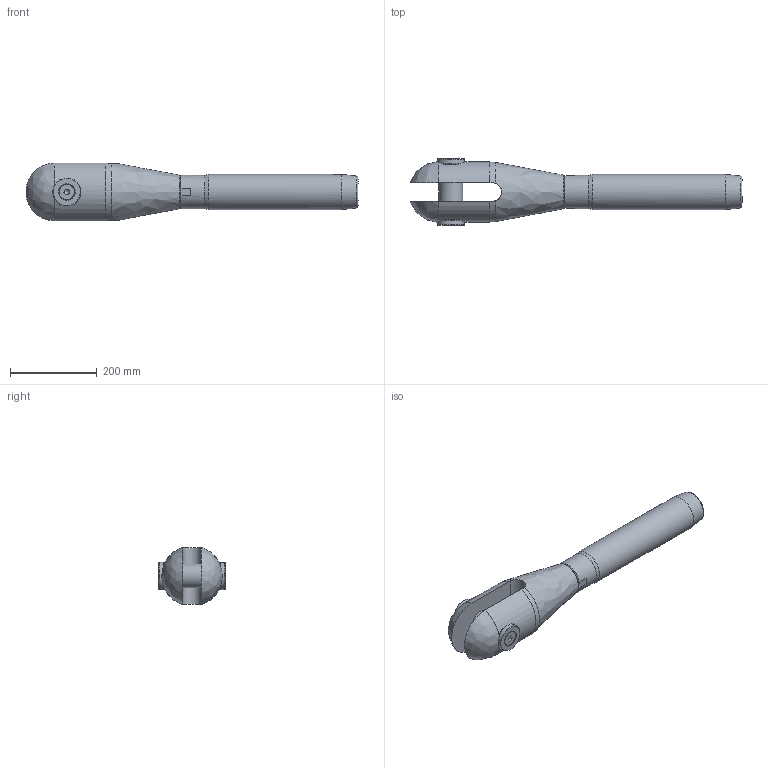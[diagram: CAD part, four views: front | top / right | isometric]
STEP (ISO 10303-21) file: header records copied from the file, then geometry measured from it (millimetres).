
FILE_DESCRIPTION(/* description */ (''),/* implementation_level */ '2;1');
FILE_NAME(/* name */ 'MAC-R 38_S355',/* time_stamp */ '2023-05-23T17:52:57+02:00',/* author */ (''),/* organization */ (''),/* preprocessor_version */ 'ST-DEVELOPER v16.5',/* originating_system */ 'Rhino 7.22',/* authorisation */ '');
FILE_SCHEMA (('CONFIG_CONTROL_DESIGN'));
Length unit declared in the file: millimetre
Products named in the file (1): Document
Bounding box: 765.13 x 152.22 x 132.5 mm (x, y, z)
Volume: 5207702.4 mm3; surface area: 404946.7 mm2
Topology: 7 solids, 7 shells, 87 faces, 244 edges, 170 vertices
Faces by surface type: plane 36, bspline 27, cylinder 24
Full cylindrical faces by diameter (mm): 17.294 x2, 20 x2, 21 x2, 35.4 x2, 55 x1, 56 x2, 63 x2, 64.752 x1, 68 x1, 77 x1, 81 x1
Entity records: 3527 total; most frequent: CARTESIAN_POINT 1975, ORIENTED_EDGE 478, EDGE_CURVE 239, VERTEX_POINT 170, EDGE_LOOP 99, B_SPLINE_CURVE_WITH_KNOTS 96, ADVANCED_FACE 87, FACE_OUTER_BOUND 87
